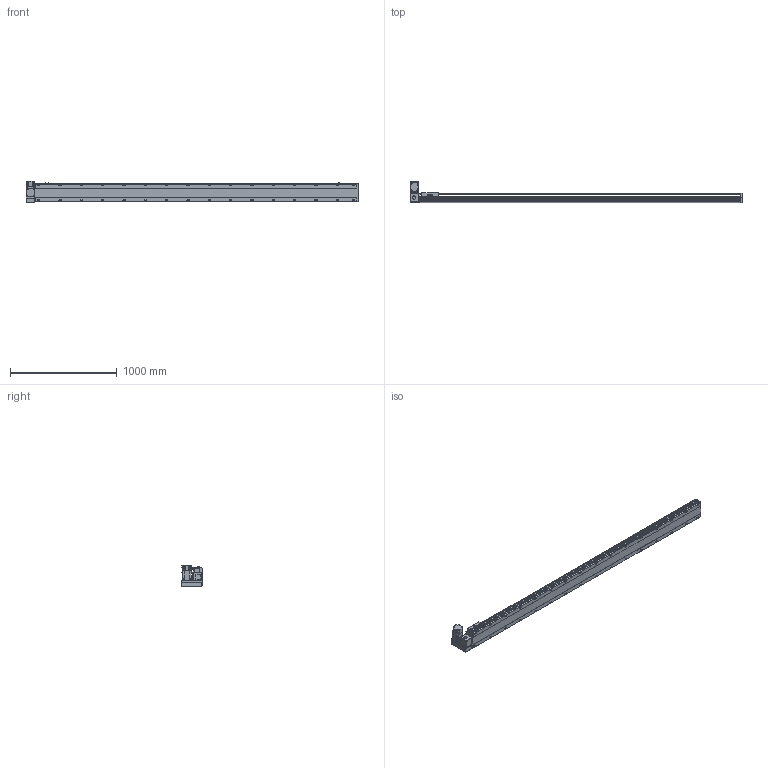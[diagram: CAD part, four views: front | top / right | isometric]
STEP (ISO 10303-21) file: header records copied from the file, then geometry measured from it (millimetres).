
FILE_DESCRIPTION( ( 'STEP AP214' ), '1' );
FILE_NAME( 'x:/temp/worker_4/temp/exporttempdir_2248_419_73o67/format_0/PBS170-P40-S2750-LU-T75-C1-N(0).stp', '2022-06-07T08:17:44', ( 'License CC BY-ND 4.0' ), ( 'CADENAS' ), ' ', 'PARTsolutions', ' ' );
FILE_SCHEMA( ( 'AUTOMOTIVE_DESIGN { 1 0 10303 214 1 1 1 1 }' ) );
Length unit declared in the file: millimetre
Products named in the file (7): PBS170-P40-S2750-LU-T75-C1-N(0); _PBS170-S2750()_body; _PBS170T-LU_motors; _T75-p1; _PBS170_sliser; _PBS170_plant; _PBS170_sensor
Assembly tree (8 placements, depth 2):
  PBS170-P40-S2750-LU-T75-C1-N(0)
    _PBS170-S2750()_body
    _PBS170T-LU_motors
    _T75-p1
    _PBS170_sliser
    _PBS170_plant
    _PBS170_sensor  x3
Bounding box: 3113 x 206 x 197.3 mm (x, y, z)
Volume: 23460279.2 mm3; surface area: 2944360 mm2
Topology: 8 solids, 8 shells, 1210 faces, 3195 edges, 2082 vertices
Faces by surface type: plane 735, cylinder 403, cone 62, sphere 8, torus 2
Full cylindrical faces by diameter (mm): 3.242 x4, 4 x2, 4.4 x4, 4.5 x6, 4.917 x4, 6 x9, 6.647 x40, 7 x2, 7.5 x4, 8 x8, 8.5 x32, 10 x4, 10.5 x32, 11 x2, 30 x2, 40 x1, 70 x1
Entity records: 44876 total; most frequent: CARTESIAN_POINT 7565, DIRECTION 5860, ORIENTED_EDGE 5508, EDGE_CURVE 2754, AXIS2_PLACEMENT_3D 2077, VERTEX_POINT 1922, LINE 1706, VECTOR 1706
